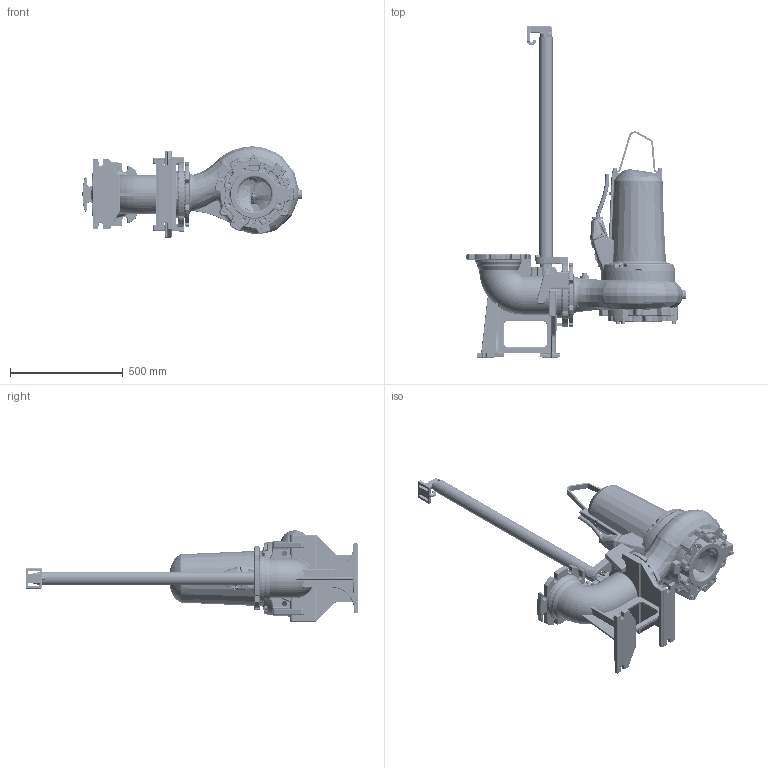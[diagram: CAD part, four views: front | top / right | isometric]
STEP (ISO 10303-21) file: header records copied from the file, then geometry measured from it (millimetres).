
FILE_DESCRIPTION (( 'STEP AP214' ), '1' );
FILE_NAME ('XFP150E Wet Well.STEP', '2018-12-10T08:15:46', ( '' ), ( '' ), 'SwSTEP 2.0', 'SolidWorks 2017', '' );
FILE_SCHEMA (( 'AUTOMOTIVE_DESIGN' ));
Length unit declared in the file: millimetre
Products named in the file (1): XFP150E Wet Well
Bounding box: 973 x 1473.5 x 406.44 mm (x, y, z)
Volume: 25969700.7 mm3; surface area: 3998796.9 mm2
Topology: 45 solids, 45 shells, 6750 faces, 16879 edges, 10109 vertices
Faces by surface type: plane 2068, cylinder 1772, bspline 1487, torus 765, cone 438, sphere 220
Entity records: 416584 total; most frequent: CARTESIAN_POINT 193453, ORIENTED_EDGE 32946, DIRECTION 28650, EDGE_CURVE 16473, AXIS2_PLACEMENT_3D 11065, VERTEX_POINT 10077, EDGE_LOOP 7130, UNCERTAINTY_MEASURE_WITH_UNIT 6797
